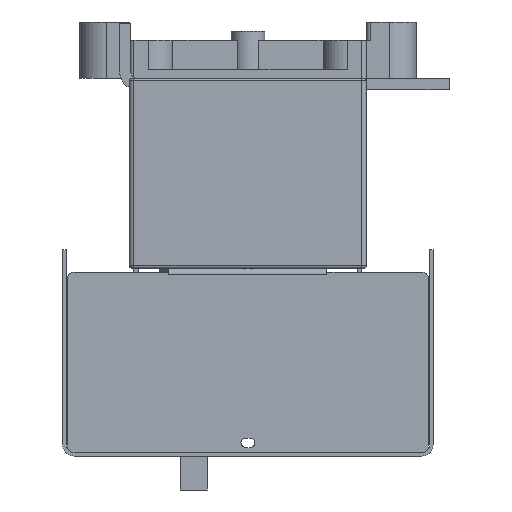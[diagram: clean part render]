
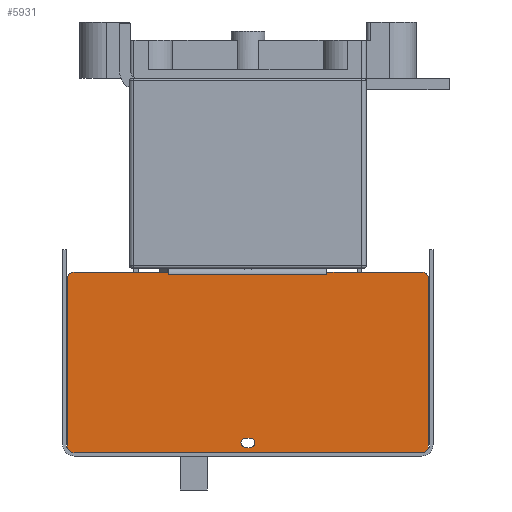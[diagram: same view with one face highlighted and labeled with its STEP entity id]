
A CAD part, left-side view. The second image highlights one B-rep face of the part: STEP entity #5931.
In plain terms, the highlighted planar face has unit normal (-1, 0, 0).
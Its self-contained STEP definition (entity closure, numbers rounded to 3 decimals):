
#602=FACE_BOUND('',#8935,.T.);
#603=FACE_BOUND('',#8936,.T.);
#2203=LINE('',#33174,#4431);
#2210=LINE('',#33192,#4438);
#2216=LINE('',#33209,#4444);
#2220=LINE('',#33222,#4448);
#2225=LINE('',#33239,#4453);
#2226=LINE('',#33244,#4454);
#2231=LINE('',#33257,#4459);
#2232=LINE('',#33259,#4460);
#2233=LINE('',#33261,#4461);
#2234=LINE('',#33263,#4462);
#2235=LINE('',#33265,#4463);
#2236=LINE('',#33267,#4464);
#4431=VECTOR('',#26939,1.);
#4438=VECTOR('',#26952,1.);
#4444=VECTOR('',#26966,1.);
#4448=VECTOR('',#26978,1.);
#4453=VECTOR('',#26997,1.);
#4454=VECTOR('',#27006,1.);
#4459=VECTOR('',#27019,1.);
#4460=VECTOR('',#27022,1.);
#4461=VECTOR('',#27023,1.);
#4462=VECTOR('',#27024,1.);
#4463=VECTOR('',#27025,1.);
#4464=VECTOR('',#27026,1.);
#5931=ADVANCED_FACE('',(#602,#603),#6831,.T.);
#6831=PLANE('',#22524);
#8935=EDGE_LOOP('',(#13155,#13156,#13157,#13158,#13159,#13160,#13161,#13162,
#13163,#13164,#13165,#13166,#13167,#13168));
#8936=EDGE_LOOP('',(#13169,#13170,#13171,#13172));
#13155=ORIENTED_EDGE('',*,*,#19463,.F.);
#13156=ORIENTED_EDGE('',*,*,#19464,.T.);
#13157=ORIENTED_EDGE('',*,*,#19465,.T.);
#13158=ORIENTED_EDGE('',*,*,#19466,.T.);
#13159=ORIENTED_EDGE('',*,*,#19467,.F.);
#13160=ORIENTED_EDGE('',*,*,#19455,.T.);
#13161=ORIENTED_EDGE('',*,*,#19460,.T.);
#13162=ORIENTED_EDGE('',*,*,#19443,.T.);
#13163=ORIENTED_EDGE('',*,*,#19446,.T.);
#13164=ORIENTED_EDGE('',*,*,#19421,.T.);
#13165=ORIENTED_EDGE('',*,*,#19449,.T.);
#13166=ORIENTED_EDGE('',*,*,#19452,.T.);
#13167=ORIENTED_EDGE('',*,*,#19454,.T.);
#13168=ORIENTED_EDGE('',*,*,#19429,.T.);
#13169=ORIENTED_EDGE('',*,*,#19433,.T.);
#13170=ORIENTED_EDGE('',*,*,#19437,.T.);
#13171=ORIENTED_EDGE('',*,*,#19440,.T.);
#13172=ORIENTED_EDGE('',*,*,#19462,.T.);
#16462=VERTEX_POINT('',#32003);
#16507=VERTEX_POINT('',#32100);
#16791=VERTEX_POINT('',#33191);
#16792=VERTEX_POINT('',#33193);
#16795=VERTEX_POINT('',#33200);
#16796=VERTEX_POINT('',#33202);
#16798=VERTEX_POINT('',#33208);
#16800=VERTEX_POINT('',#33214);
#16803=VERTEX_POINT('',#33221);
#16804=VERTEX_POINT('',#33223);
#16806=VERTEX_POINT('',#33232);
#16808=VERTEX_POINT('',#33238);
#16809=VERTEX_POINT('',#33245);
#16810=VERTEX_POINT('',#33246);
#16813=VERTEX_POINT('',#33260);
#16814=VERTEX_POINT('',#33262);
#16815=VERTEX_POINT('',#33264);
#16816=VERTEX_POINT('',#33266);
#19421=EDGE_CURVE('',#16462,#16507,#2203,.T.);
#19429=EDGE_CURVE('',#16792,#16791,#2210,.T.);
#19433=EDGE_CURVE('',#16796,#16795,#21043,.T.);
#19437=EDGE_CURVE('',#16795,#16798,#2216,.T.);
#19440=EDGE_CURVE('',#16798,#16800,#21045,.T.);
#19443=EDGE_CURVE('',#16804,#16803,#2220,.T.);
#19446=EDGE_CURVE('',#16803,#16462,#21047,.T.);
#19449=EDGE_CURVE('',#16507,#16806,#21049,.T.);
#19452=EDGE_CURVE('',#16806,#16808,#2225,.T.);
#19454=EDGE_CURVE('',#16808,#16792,#21051,.T.);
#19455=EDGE_CURVE('',#16809,#16810,#2226,.T.);
#19460=EDGE_CURVE('',#16810,#16804,#21053,.T.);
#19462=EDGE_CURVE('',#16800,#16796,#2231,.T.);
#19463=EDGE_CURVE('',#16813,#16791,#2232,.T.);
#19464=EDGE_CURVE('',#16813,#16814,#2233,.T.);
#19465=EDGE_CURVE('',#16814,#16815,#2234,.T.);
#19466=EDGE_CURVE('',#16815,#16816,#2235,.T.);
#19467=EDGE_CURVE('',#16809,#16816,#2236,.T.);
#21043=CIRCLE('',#22502,2.1);
#21045=CIRCLE('',#22506,2.1);
#21047=CIRCLE('',#22510,3.);
#21049=CIRCLE('',#22513,3.);
#21051=CIRCLE('',#22517,3.);
#21053=CIRCLE('',#22521,3.);
#22502=AXIS2_PLACEMENT_3D('',#33201,#26959,#26960);
#22506=AXIS2_PLACEMENT_3D('',#33215,#26972,#26973);
#22510=AXIS2_PLACEMENT_3D('',#33227,#26984,#26985);
#22513=AXIS2_PLACEMENT_3D('',#33233,#26991,#26992);
#22517=AXIS2_PLACEMENT_3D('',#33242,#27002,#27003);
#22521=AXIS2_PLACEMENT_3D('',#33254,#27014,#27015);
#22524=AXIS2_PLACEMENT_3D('',#33268,#27027,#27028);
#26939=DIRECTION('',(0.,-1.,0.));
#26952=DIRECTION('',(0.,1.,0.));
#26959=DIRECTION('',(1.,0.,0.));
#26960=DIRECTION('',(0.,1.,0.));
#26966=DIRECTION('',(0.,-1.,0.));
#26972=DIRECTION('',(1.,0.,0.));
#26973=DIRECTION('',(0.,1.,0.));
#26978=DIRECTION('',(0.,0.,-1.));
#26984=DIRECTION('',(-1.,0.,0.));
#26985=DIRECTION('',(0.,1.,0.));
#26991=DIRECTION('',(-1.,0.,0.));
#26992=DIRECTION('',(0.,1.,0.));
#26997=DIRECTION('',(0.,0.,1.));
#27002=DIRECTION('',(-1.,0.,0.));
#27003=DIRECTION('',(0.,1.,0.));
#27006=DIRECTION('',(0.,1.,0.));
#27014=DIRECTION('',(-1.,0.,0.));
#27015=DIRECTION('',(0.,1.,0.));
#27019=DIRECTION('',(0.,1.,0.));
#27022=DIRECTION('',(0.,0.,1.));
#27023=DIRECTION('',(0.,1.,0.));
#27024=DIRECTION('',(0.,1.,0.));
#27025=DIRECTION('',(0.,1.,0.));
#27026=DIRECTION('',(0.,0.,-1.));
#27027=DIRECTION('',(-1.,0.,0.));
#27028=DIRECTION('',(0.,-1.,0.));
#32003=CARTESIAN_POINT('',(-189.3,77.,-165.8));
#32100=CARTESIAN_POINT('',(-189.3,-77.,-165.8));
#33174=CARTESIAN_POINT('',(-189.3,77.,-165.8));
#33191=CARTESIAN_POINT('',(-189.3,-35.002,-85.8));
#33192=CARTESIAN_POINT('',(-189.3,-77.,-85.8));
#33193=CARTESIAN_POINT('',(-189.3,-77.,-85.8));
#33200=CARTESIAN_POINT('',(-189.3,1.,-159.3));
#33201=CARTESIAN_POINT('',(-189.3,1.,-161.4));
#33202=CARTESIAN_POINT('',(-189.3,1.,-163.5));
#33208=CARTESIAN_POINT('',(-189.3,-1.,-159.3));
#33209=CARTESIAN_POINT('',(-189.3,1.,-159.3));
#33214=CARTESIAN_POINT('',(-189.3,-1.,-163.5));
#33215=CARTESIAN_POINT('',(-189.3,-1.,-161.4));
#33221=CARTESIAN_POINT('',(-189.3,80.,-162.8));
#33222=CARTESIAN_POINT('',(-189.3,80.,-88.8));
#33223=CARTESIAN_POINT('',(-189.3,80.,-88.8));
#33227=CARTESIAN_POINT('',(-189.3,77.,-162.8));
#33232=CARTESIAN_POINT('',(-189.3,-80.,-162.8));
#33233=CARTESIAN_POINT('',(-189.3,-77.,-162.8));
#33238=CARTESIAN_POINT('',(-189.3,-80.,-88.8));
#33239=CARTESIAN_POINT('',(-189.3,-80.,-162.8));
#33242=CARTESIAN_POINT('',(-189.3,-77.,-88.8));
#33244=CARTESIAN_POINT('',(-189.3,-77.,-85.8));
#33245=CARTESIAN_POINT('',(-189.3,35.002,-85.8));
#33246=CARTESIAN_POINT('',(-189.3,77.,-85.8));
#33254=CARTESIAN_POINT('',(-189.3,77.,-88.8));
#33257=CARTESIAN_POINT('',(-189.3,-1.,-163.5));
#33259=CARTESIAN_POINT('',(-189.3,-35.002,-162.8));
#33260=CARTESIAN_POINT('',(-189.3,-35.002,-86.8));
#33261=CARTESIAN_POINT('',(-189.3,77.,-86.8));
#33262=CARTESIAN_POINT('',(-189.3,-35.,-86.8));
#33263=CARTESIAN_POINT('',(-189.3,50.5,-86.8));
#33264=CARTESIAN_POINT('',(-189.3,35.,-86.8));
#33265=CARTESIAN_POINT('',(-189.3,77.,-86.8));
#33266=CARTESIAN_POINT('',(-189.3,35.002,-86.8));
#33267=CARTESIAN_POINT('',(-189.3,35.002,-162.8));
#33268=CARTESIAN_POINT('',(-189.3,77.,-162.8));
